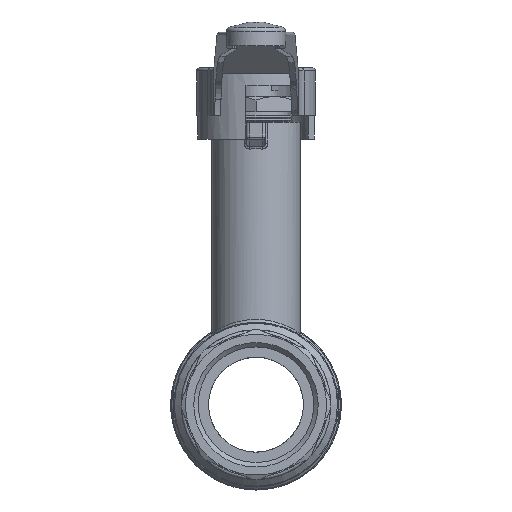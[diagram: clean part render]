
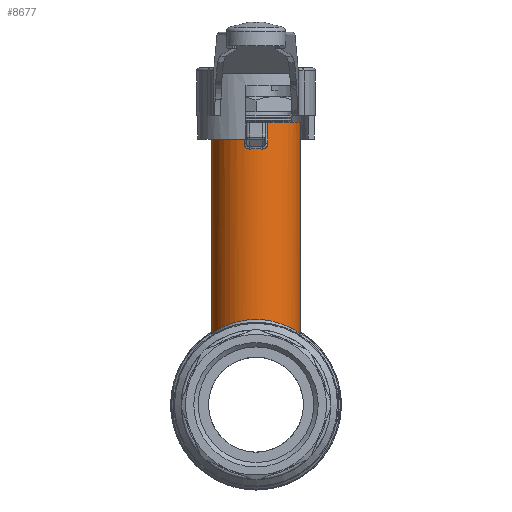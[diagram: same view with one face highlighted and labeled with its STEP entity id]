
A CAD part, left-side view. The second image highlights one B-rep face of the part: STEP entity #8677.
In plain terms, the highlighted cylindrical face has radius 15 mm (diameter 30 mm), a full revolution.
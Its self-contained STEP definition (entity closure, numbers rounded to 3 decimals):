
#260=ELLIPSE('',#9267,16.091,15.);
#300=B_SPLINE_CURVE_WITH_KNOTS('',3,(#12802,#12803,#12804,#12805,#12806,
#12807),.UNSPECIFIED.,.F.,.F.,(4,1,1,4),(0.,0.136,
0.227,0.318),.UNSPECIFIED.);
#301=B_SPLINE_CURVE_WITH_KNOTS('',3,(#12810,#12811,#12812,#12813,#12814,
#12815),.UNSPECIFIED.,.F.,.F.,(4,1,1,4),(0.,0.136,
0.227,0.318),.UNSPECIFIED.);
#302=B_SPLINE_CURVE_WITH_KNOTS('',3,(#12818,#12819,#12820,#12821),
 .UNSPECIFIED.,.F.,.F.,(4,4),(0.,0.09),.UNSPECIFIED.);
#303=B_SPLINE_CURVE_WITH_KNOTS('',3,(#12823,#12824,#12825,#12826),
 .UNSPECIFIED.,.F.,.F.,(4,4),(-0.285,0.),
 .UNSPECIFIED.);
#304=B_SPLINE_CURVE_WITH_KNOTS('',3,(#12828,#12829,#12830,#12831,#12832,
#12833),.UNSPECIFIED.,.F.,.F.,(4,1,1,4),(0.,0.711,
1.186,1.66),.UNSPECIFIED.);
#305=B_SPLINE_CURVE_WITH_KNOTS('',3,(#12835,#12836,#12837,#12838),
 .UNSPECIFIED.,.F.,.F.,(4,4),(-0.285,0.),.UNSPECIFIED.);
#306=B_SPLINE_CURVE_WITH_KNOTS('',3,(#12840,#12841,#12842,#12843),
 .UNSPECIFIED.,.F.,.F.,(4,4),(6.566,6.656),
 .UNSPECIFIED.);
#307=B_SPLINE_CURVE_WITH_KNOTS('',3,(#12844,#12845,#12846,#12847,#12848,
#12849,#12850,#12851,#12852,#12853,#12854,#12855,#12856,#12857,#12858,#12859),
 .UNSPECIFIED.,.F.,.F.,(4,1,1,1,1,1,1,1,1,1,1,1,1,4),(6.267,
6.81,7.379,7.947,8.515,9.652,
10.41,10.788,11.167,11.925,12.493,
13.062,13.63,14.173),.UNSPECIFIED.);
#466=LINE('',#12794,#1137);
#468=LINE('',#12800,#1139);
#1137=VECTOR('',#10228,7.079);
#1139=VECTOR('',#10234,7.079);
#2100=CYLINDRICAL_SURFACE('',#9266,15.);
#2227=FACE_BOUND('',#2954,.T.);
#2382=FACE_OUTER_BOUND('',#2953,.T.);
#2953=EDGE_LOOP('',(#6125,#6126,#6127,#6128,#6129,#6130));
#2954=EDGE_LOOP('',(#6131,#6132,#6133,#6134,#6135,#6136));
#3652=CIRCLE('',#9248,15.);
#4005=VERTEX_POINT('',#12727);
#4006=VERTEX_POINT('',#12729);
#4017=VERTEX_POINT('',#12793);
#4019=VERTEX_POINT('',#12799);
#4020=VERTEX_POINT('',#12801);
#4021=VERTEX_POINT('',#12808);
#4022=VERTEX_POINT('',#12816);
#4023=VERTEX_POINT('',#12817);
#4024=VERTEX_POINT('',#12822);
#4025=VERTEX_POINT('',#12827);
#4026=VERTEX_POINT('',#12834);
#4027=VERTEX_POINT('',#12839);
#4847=EDGE_CURVE('',#4006,#4005,#3652,.T.);
#4859=EDGE_CURVE('',#4006,#4017,#466,.T.);
#4862=EDGE_CURVE('',#4019,#4005,#468,.T.);
#4863=EDGE_CURVE('',#4020,#4019,#300,.T.);
#4864=EDGE_CURVE('',#4021,#4020,#260,.T.);
#4865=EDGE_CURVE('',#4017,#4021,#301,.T.);
#4866=EDGE_CURVE('',#4022,#4023,#302,.T.);
#4867=EDGE_CURVE('',#4024,#4022,#303,.T.);
#4868=EDGE_CURVE('',#4025,#4024,#304,.T.);
#4869=EDGE_CURVE('',#4026,#4025,#305,.T.);
#4870=EDGE_CURVE('',#4027,#4026,#306,.T.);
#4871=EDGE_CURVE('',#4023,#4027,#307,.T.);
#6125=ORIENTED_EDGE('',*,*,#4847,.T.);
#6126=ORIENTED_EDGE('',*,*,#4862,.F.);
#6127=ORIENTED_EDGE('',*,*,#4863,.F.);
#6128=ORIENTED_EDGE('',*,*,#4864,.F.);
#6129=ORIENTED_EDGE('',*,*,#4865,.F.);
#6130=ORIENTED_EDGE('',*,*,#4859,.F.);
#6131=ORIENTED_EDGE('',*,*,#4866,.F.);
#6132=ORIENTED_EDGE('',*,*,#4867,.F.);
#6133=ORIENTED_EDGE('',*,*,#4868,.F.);
#6134=ORIENTED_EDGE('',*,*,#4869,.F.);
#6135=ORIENTED_EDGE('',*,*,#4870,.F.);
#6136=ORIENTED_EDGE('',*,*,#4871,.F.);
#8677=ADVANCED_FACE('',(#2382,#2227),#2100,.T.);
#9248=AXIS2_PLACEMENT_3D('',#12730,#10192,#10193);
#9266=AXIS2_PLACEMENT_3D('',#12798,#10232,#10233);
#9267=AXIS2_PLACEMENT_3D('',#12809,#10235,#10236);
#10192=DIRECTION('center_axis',(0.,0.,-1.));
#10193=DIRECTION('ref_axis',(-1.,0.,0.));
#10228=DIRECTION('',(0.,0.,-1.));
#10232=DIRECTION('center_axis',(0.,0.,1.));
#10233=DIRECTION('ref_axis',(-1.,0.,0.));
#10234=DIRECTION('',(0.,0.,1.));
#10235=DIRECTION('center_axis',(0.362,0.,0.932));
#10236=DIRECTION('ref_axis',(-0.932,0.,0.362));
#12727=CARTESIAN_POINT('',(-14.461,-3.984,95.25));
#12729=CARTESIAN_POINT('',(-14.461,3.984,95.25));
#12730=CARTESIAN_POINT('Origin',(0.,0.,95.25));
#12793=CARTESIAN_POINT('',(-14.461,3.984,88.171));
#12794=CARTESIAN_POINT('',(-14.461,3.984,0.));
#12798=CARTESIAN_POINT('Origin',(0.,0.,0.));
#12799=CARTESIAN_POINT('',(-14.461,-3.984,88.171));
#12800=CARTESIAN_POINT('',(-14.461,-3.984,0.));
#12801=CARTESIAN_POINT('',(-14.851,-2.109,86.194));
#12802=CARTESIAN_POINT('Ctrl Pts',(-14.851,-2.109,86.194));
#12803=CARTESIAN_POINT('Ctrl Pts',(-14.791,-2.53,
86.171));
#12804=CARTESIAN_POINT('Ctrl Pts',(-14.653,-3.246,86.404));
#12805=CARTESIAN_POINT('Ctrl Pts',(-14.493,-3.869,
87.261));
#12806=CARTESIAN_POINT('Ctrl Pts',(-14.461,-3.984,
87.869));
#12807=CARTESIAN_POINT('Ctrl Pts',(-14.461,-3.984,88.171));
#12808=CARTESIAN_POINT('',(-14.851,2.109,86.194));
#12809=CARTESIAN_POINT('Origin',(0.,0.,80.428));
#12810=CARTESIAN_POINT('Ctrl Pts',(-14.461,3.984,88.171));
#12811=CARTESIAN_POINT('Ctrl Pts',(-14.461,3.984,87.718));
#12812=CARTESIAN_POINT('Ctrl Pts',(-14.528,3.755,86.948));
#12813=CARTESIAN_POINT('Ctrl Pts',(-14.714,2.955,86.287));
#12814=CARTESIAN_POINT('Ctrl Pts',(-14.811,2.39,86.179));
#12815=CARTESIAN_POINT('Ctrl Pts',(-14.851,2.109,86.194));
#12816=CARTESIAN_POINT('',(11.719,-9.363,27.401));
#12817=CARTESIAN_POINT('',(11.33,-9.83,26.77));
#12818=CARTESIAN_POINT('Ctrl Pts',(11.719,-9.363,27.401));
#12819=CARTESIAN_POINT('Ctrl Pts',(11.591,-9.523,27.193));
#12820=CARTESIAN_POINT('Ctrl Pts',(11.461,-9.679,26.983));
#12821=CARTESIAN_POINT('Ctrl Pts',(11.33,-9.83,26.77));
#12822=CARTESIAN_POINT('',(13.045,-7.405,28.682));
#12823=CARTESIAN_POINT('Ctrl Pts',(13.045,-7.405,28.682));
#12824=CARTESIAN_POINT('Ctrl Pts',(12.616,-8.16,28.461));
#12825=CARTESIAN_POINT('Ctrl Pts',(12.123,-8.858,28.056));
#12826=CARTESIAN_POINT('Ctrl Pts',(11.719,-9.363,27.401));
#12827=CARTESIAN_POINT('',(13.045,7.405,28.682));
#12828=CARTESIAN_POINT('Ctrl Pts',(13.045,7.405,28.682));
#12829=CARTESIAN_POINT('Ctrl Pts',(14.112,5.525,29.235));
#12830=CARTESIAN_POINT('Ctrl Pts',(15.241,1.886,29.892));
#12831=CARTESIAN_POINT('Ctrl Pts',(14.84,-3.377,29.655));
#12832=CARTESIAN_POINT('Ctrl Pts',(13.756,-6.152,29.05));
#12833=CARTESIAN_POINT('Ctrl Pts',(13.045,-7.405,28.682));
#12834=CARTESIAN_POINT('',(11.719,9.363,27.401));
#12835=CARTESIAN_POINT('Ctrl Pts',(11.719,9.363,27.401));
#12836=CARTESIAN_POINT('Ctrl Pts',(12.123,8.858,28.056));
#12837=CARTESIAN_POINT('Ctrl Pts',(12.616,8.16,28.461));
#12838=CARTESIAN_POINT('Ctrl Pts',(13.045,7.405,28.682));
#12839=CARTESIAN_POINT('',(11.33,9.83,26.77));
#12840=CARTESIAN_POINT('Ctrl Pts',(11.33,9.83,26.77));
#12841=CARTESIAN_POINT('Ctrl Pts',(11.461,9.679,26.983));
#12842=CARTESIAN_POINT('Ctrl Pts',(11.591,9.523,27.193));
#12843=CARTESIAN_POINT('Ctrl Pts',(11.719,9.363,27.401));
#12844=CARTESIAN_POINT('Ctrl Pts',(11.33,-9.83,26.77));
#12845=CARTESIAN_POINT('Ctrl Pts',(10.256,-11.068,26.253));
#12846=CARTESIAN_POINT('Ctrl Pts',(7.663,-13.219,25.122));
#12847=CARTESIAN_POINT('Ctrl Pts',(2.765,-15.077,23.836));
#12848=CARTESIAN_POINT('Ctrl Pts',(-2.738,-15.074,
23.834));
#12849=CARTESIAN_POINT('Ctrl Pts',(-9.355,-12.597,25.569));
#12850=CARTESIAN_POINT('Ctrl Pts',(-14.411,-6.68,
28.39));
#12851=CARTESIAN_POINT('Ctrl Pts',(-15.331,0.627,28.947));
#12852=CARTESIAN_POINT('Ctrl Pts',(-14.189,5.268,28.27));
#12853=CARTESIAN_POINT('Ctrl Pts',(-12.067,9.42,27.097));
#12854=CARTESIAN_POINT('Ctrl Pts',(-8.267,12.999,25.277));
#12855=CARTESIAN_POINT('Ctrl Pts',(-2.732,15.079,23.834));
#12856=CARTESIAN_POINT('Ctrl Pts',(2.761,15.073,23.836));
#12857=CARTESIAN_POINT('Ctrl Pts',(7.662,13.223,25.121));
#12858=CARTESIAN_POINT('Ctrl Pts',(10.258,11.066,26.254));
#12859=CARTESIAN_POINT('Ctrl Pts',(11.33,9.83,26.77));
